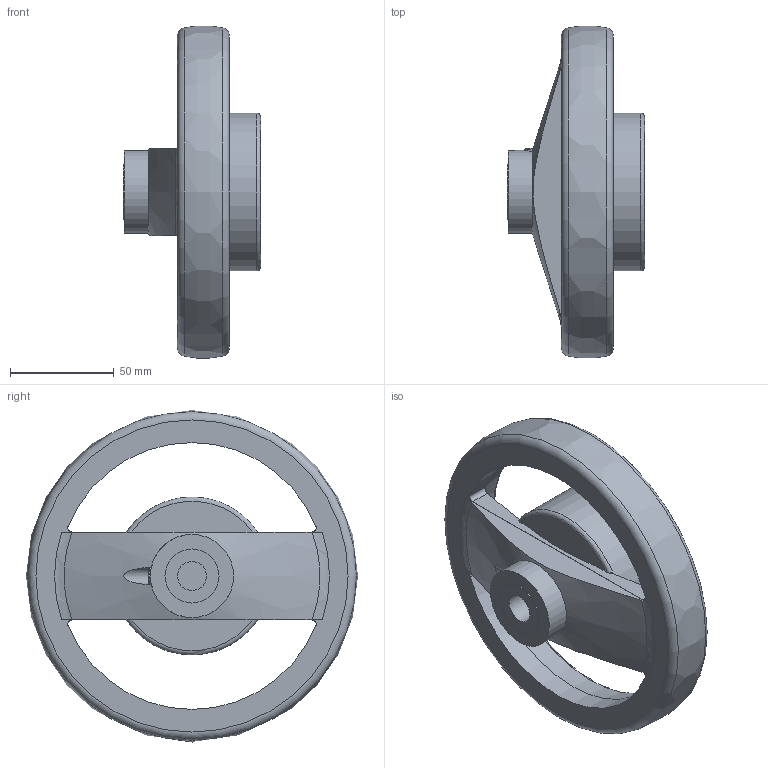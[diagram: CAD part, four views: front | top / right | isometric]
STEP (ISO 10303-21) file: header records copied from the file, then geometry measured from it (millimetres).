
FILE_DESCRIPTION( ( 'STEP AP203' ), '1' );
FILE_NAME( 'C:/Temp/Ganter_Step_05_03_2020/data/1_4/gn_522_8/gn_522_8_b/gn_522_8_b_a/Spoked handwheel GN 522.8-160-B14-A.stp', '2020-03-05T10:53:28', ( 'License CC BY-ND 4.0' ), ( 'CADENAS' ), ' ', 'PARTsolutions', ' ' );
FILE_SCHEMA( ( 'CONFIG_CONTROL_DESIGN' ) );
Length unit declared in the file: millimetre
Products named in the file (1): _Spoked handwheel GN 522.8-160-B14-A
Bounding box: 66 x 159.78 x 159.78 mm (x, y, z)
Volume: 291092 mm3; surface area: 72059.3 mm2
Topology: 1 solids, 1 shells, 63 faces, 153 edges, 99 vertices
Faces by surface type: plane 27, cylinder 20, cone 8, torus 7, bspline 1
Full cylindrical faces by diameter (mm): 6 x4, 8 x1, 14 x1, 26 x1, 40 x1, 67 x1, 68.8 x1, 76 x1
Entity records: 2084 total; most frequent: CARTESIAN_POINT 698, DIRECTION 276, ORIENTED_EDGE 244, EDGE_CURVE 122, AXIS2_PLACEMENT_3D 121, EDGE_LOOP 102, VERTEX_POINT 90, FACE_OUTER_BOUND 80
